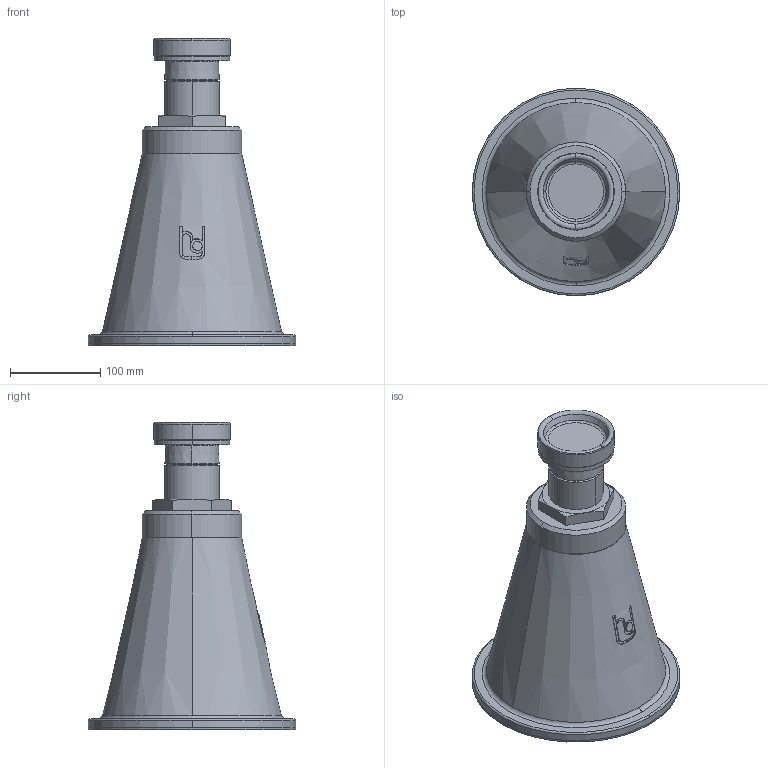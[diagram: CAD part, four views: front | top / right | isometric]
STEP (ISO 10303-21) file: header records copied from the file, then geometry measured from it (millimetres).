
FILE_DESCRIPTION(('STEP AP214'),'1');
FILE_NAME('RSRFA-09-V0.stp','2018-06-25T11:06:05',(' '),(' '),'Spatial InterOp 3D',' ',' ');
FILE_SCHEMA(('automotive_design'));
Length unit declared in the file: millimetre
Products named in the file (6): 1; 2; 3; 4; 5; 6
Bounding box: 230 x 230 x 340.49 mm (x, y, z)
Volume: 5575654.7 mm3; surface area: 372756.9 mm2
Topology: 6 solids, 7 shells, 122 faces, 290 edges, 186 vertices
Faces by surface type: plane 42, cylinder 37, cone 29, torus 14
Entity records: 5030 total; most frequent: CARTESIAN_POINT 1062, DIRECTION 640, ORIENTED_EDGE 580, EDGE_CURVE 290, AXIS2_PLACEMENT_3D 264, VERTEX_POINT 186, EDGE_LOOP 130, STYLED_ITEM 128
